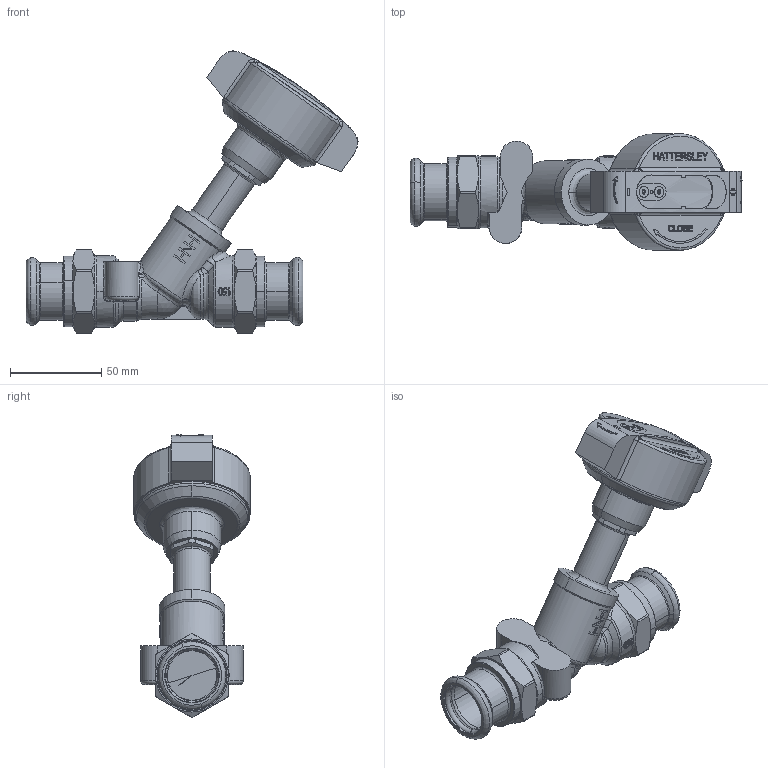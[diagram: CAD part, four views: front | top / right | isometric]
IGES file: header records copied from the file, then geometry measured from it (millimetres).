
Global section: file name: No Iges File Name specified; native system: AutoDesk Inventor R12.0; preprocessor: AutoDesk Inventor Iges Exporter R12.0; date: 20110824.155804; units: millimetre
Bounding box: 181.77 x 63.85 x 154.55 mm (x, y, z)
Volume: 286420 mm3; surface area: 52751.1 mm2
Topology: 1 solids, 3 shells, 736 faces, 1947 edges, 1264 vertices
Faces by surface type: plane 296, bspline 235, cylinder 85, cone 51, revolution 36, torus 31, sphere 2
